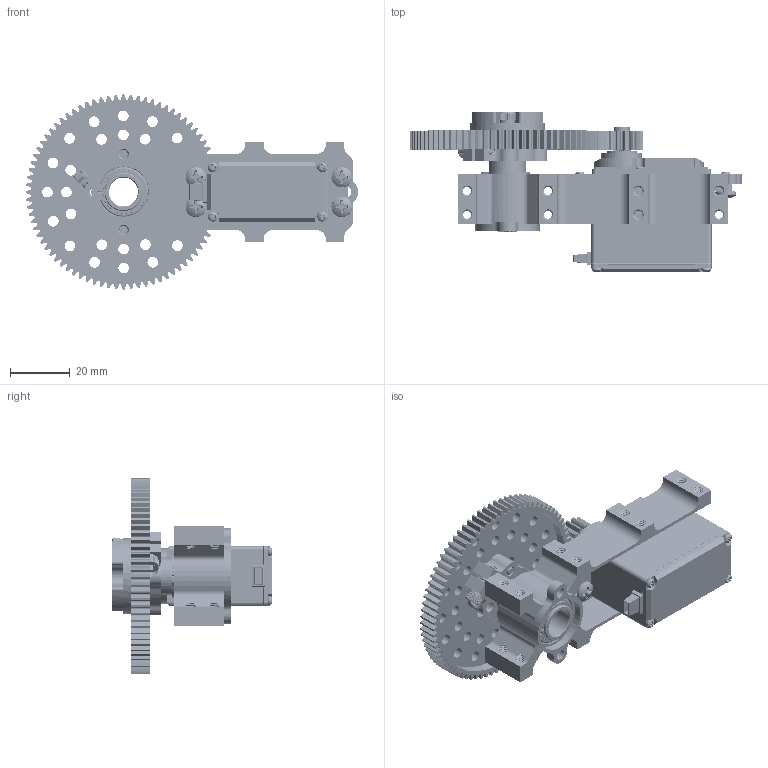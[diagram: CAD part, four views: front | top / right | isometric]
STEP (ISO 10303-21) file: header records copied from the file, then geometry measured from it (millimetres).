
FILE_DESCRIPTION (( 'STEP AP203' ), '1' );
FILE_NAME ('SG20-50.STEP', '2020-06-25T21:57:29', ( '' ), ( '' ), 'SwSTEP 2.0', 'SolidWorks 2016', '' );
FILE_SCHEMA (( 'CONFIG_CONTROL_DESIGN' ));
Products named in the file (9): 545440; 545600 assembly; 615298_Gear Blank; 632114_90128A121; SG20 Part; SG20-50; 615206_Gear Blank; 632110_90128A121; 545600
Assembly tree (8 placements, depth 3):
  SG20-50
    SG20 Part
    545440
    615206_Gear Blank
    615298_Gear Blank
    632114_90128A121
    545600 assembly
      545600
      632110_90128A121
Bounding box: 110.81 x 53.7 x 65.09 mm (x, y, z)
Volume: 59632.3 mm3; surface area: 44490.2 mm2
Topology: 30 solids, 32 shells, 6259 faces, 16436 edges, 10218 vertices
Faces by surface type: cylinder 2885, bspline 1471, plane 1130, torus 357, cone 318, sphere 98
Entity records: 308673 total; most frequent: CARTESIAN_POINT 170772, ORIENTED_EDGE 32712, DIRECTION 24243, EDGE_CURVE 16356, VERTEX_POINT 10208, AXIS2_PLACEMENT_3D 9350, EDGE_LOOP 6486, FACE_OUTER_BOUND 6259
